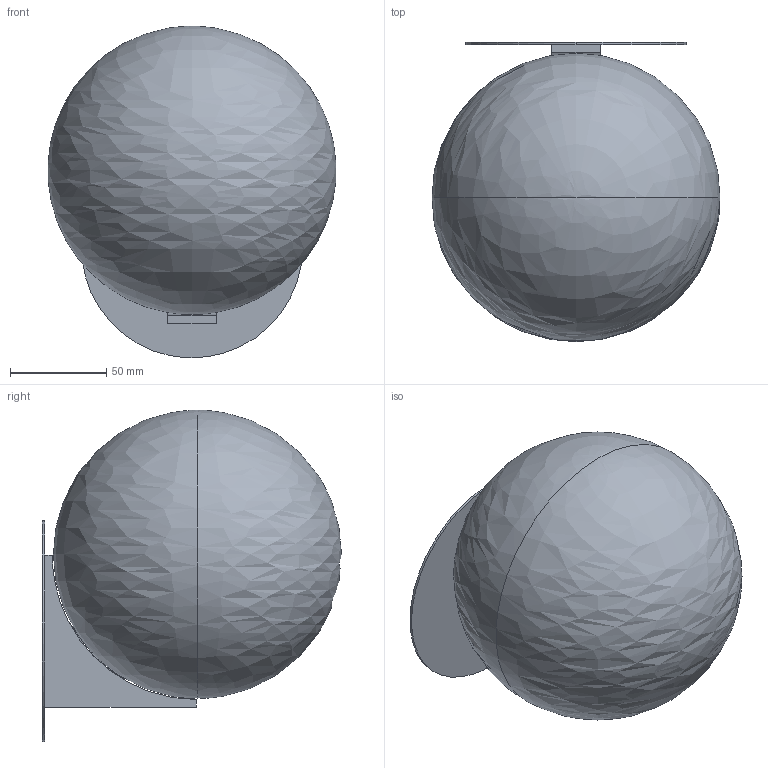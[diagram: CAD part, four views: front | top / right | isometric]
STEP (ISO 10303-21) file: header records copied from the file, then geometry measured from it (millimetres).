
FILE_DESCRIPTION(/* description */ (''),/* implementation_level */ '2;1');
FILE_NAME(/* name */ 'MA_BAC SS150_120V_2017',/* time_stamp */ '2020-12-02T11:18:48+00:00',/* author */ (''),/* organization */ (''),/* preprocessor_version */ 'ST-DEVELOPER v15',/* originating_system */ '',/* authorisation */ '');
FILE_SCHEMA (('AUTOMOTIVE_DESIGN'));
Length unit declared in the file: millimetre
Products named in the file (1): Document
Bounding box: 149.82 x 155.74 x 172.54 mm (x, y, z)
Volume: 1831778.1 mm3; surface area: 98807.4 mm2
Topology: 1 solids, 1 shells, 14 faces, 34 edges, 22 vertices
Faces by surface type: bspline 9, plane 5
Entity records: 462 total; most frequent: CARTESIAN_POINT 254, ORIENTED_EDGE 58, EDGE_CURVE 29, VERTEX_POINT 20, EDGE_LOOP 17, ADVANCED_FACE 14, FACE_OUTER_BOUND 14, DIRECTION 11
